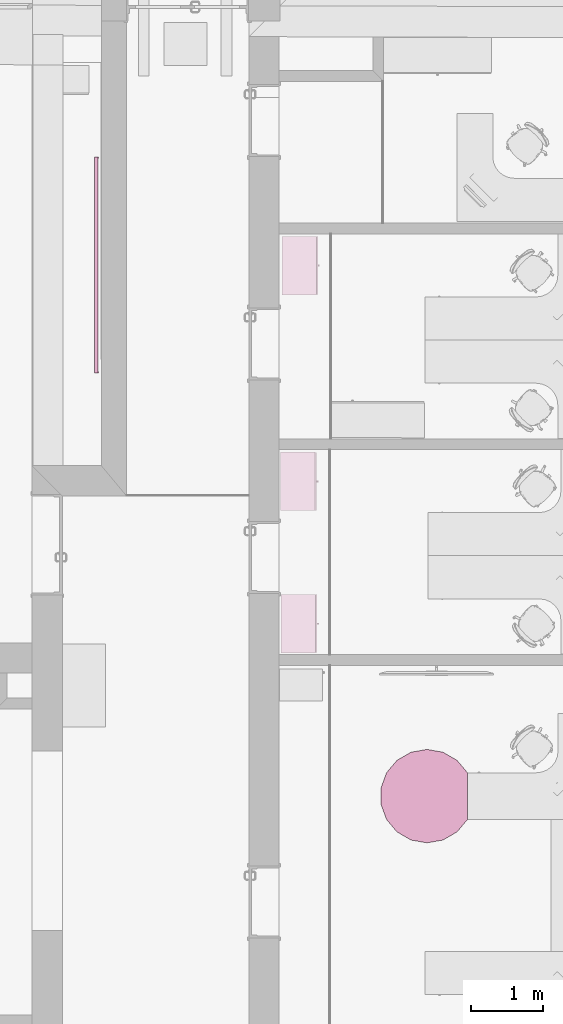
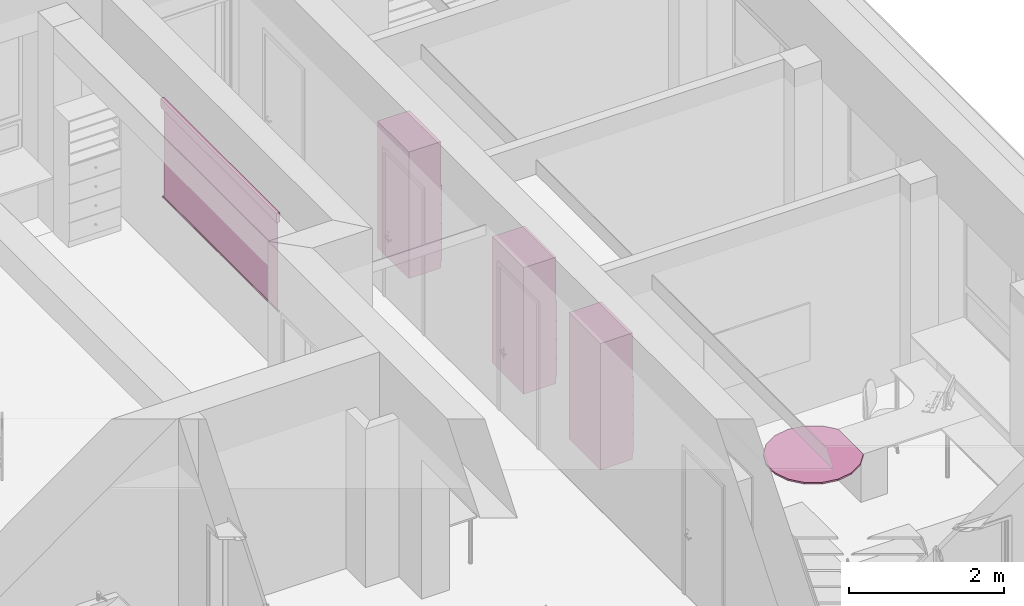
# One storey, part 125 of 194: 5 furnishings.
"""IFC2X3 building model written with IfcOpenShell, lengths in millimetres."""

from ifc_helpers import new_model, entity, si_unit, converted_unit, derived_unit, money_unit, direction, frame, origin_with_axes, place, context, subcontext, project, spatial, open_shell, faceted_brep, surface_model, source, transform, mapped, material, type_object, element, save


model = new_model("IFC2X3")

# Units and contexts
model_context = context("Model", 3, precision=1e-05, world=origin_with_axes(), true_north=direction((0.0, 1.0)))
body_context = subcontext(model_context, "Body", "Model", "MODEL_VIEW")
ifc_project = project(units=[si_unit("LENGTHUNIT", "METRE", prefix="MILLI"), si_unit("AREAUNIT", "SQUARE_METRE"), si_unit("VOLUMEUNIT", "CUBIC_METRE"), converted_unit("PLANEANGLEUNIT", "DEGREE", entity("IfcPlaneAngleMeasure", 0.0174532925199), si_unit("PLANEANGLEUNIT", "RADIAN"), dimensions=[0, 0, 0, 0, 0, 0, 0]), si_unit("SOLIDANGLEUNIT", "STERADIAN"), money_unit("EUR"), converted_unit("TIMEUNIT", "Year", entity("IfcTimeMeasure", 31556926.0), si_unit("TIMEUNIT", "SECOND"), dimensions=[0, 0, 1, 0, 0, 0, 0]), si_unit("MASSUNIT", "GRAM", prefix="KILO"), si_unit("THERMODYNAMICTEMPERATUREUNIT", "DEGREE_CELSIUS"), si_unit("LUMINOUSINTENSITYUNIT", "LUMEN"), si_unit("ENERGYUNIT", "JOULE", prefix="MEGA"), derived_unit("THERMALCONDUCTANCEUNIT", [(si_unit("POWERUNIT", "WATT"), 1), (si_unit("LENGTHUNIT", "METRE"), -1), (si_unit("THERMODYNAMICTEMPERATUREUNIT", "KELVIN"), -1)]), derived_unit("SPECIFICHEATCAPACITYUNIT", [(si_unit("ENERGYUNIT", "JOULE"), 1), (si_unit("MASSUNIT", "GRAM", prefix="KILO"), -1), (si_unit("THERMODYNAMICTEMPERATUREUNIT", "KELVIN"), -1)]), derived_unit("MASSDENSITYUNIT", [(si_unit("MASSUNIT", "GRAM", prefix="KILO"), 1), (si_unit("VOLUMEUNIT", "CUBIC_METRE"), -1)])], contexts=[model_context])

# Site, building, storey
site_placement = place(None, origin_with_axes())
site = spatial("IfcSite", under=ifc_project, at=site_placement, Name="Site", CompositionType="ELEMENT")
building_placement = place(site_placement, origin_with_axes())
building = spatial("IfcBuilding", under=site, at=building_placement, Name="Building", CompositionType="ELEMENT")
storey_placement = place(building_placement, frame((0.0, 0.0, 3000.0), z_axis=(0.0, 0.0, 1.0), x_axis=(1.0, 0.0, 0.0)))
storey = spatial("IfcBuildingStorey", under=building, at=storey_placement, Name="2 KORRUS", CompositionType="ELEMENT", Elevation=3000.0)

# Furnishings
furnishing_element_type_1 = type_object("IfcFurnishingElementType", Name="Projector Screen 22")
shared_shape_1 = source(origin_with_axes(), body_context, "Body", "SurfaceModel", [
    faceted_brep([(1500.0, 12.5, 1450.0), (1500.0, -31.25, 1450.0), (-1500.0, -31.25, 1450.0), (-1500.0, 12.5, 1450.0), (1500.0, 12.5, 1600.0), (1500.0, -37.5, 1600.0), (1500.0, -37.5, 1475.0), (1500.0, -31.25, 1475.0), (-1500.0, -31.25, 1475.0), (-1500.0, -37.5, 1475.0), (-1500.0, -37.5, 1600.0), (-1500.0, 12.5, 1600.0)], [[[0, 1, 2, 3]], [[0, 4, 5, 6, 7, 1]], [[1, 7, 8, 2]], [[3, 2, 8, 9, 10, 11]], [[4, 0, 3, 11]], [[5, 4, 11, 10]], [[6, 5, 10, 9]], [[7, 6, 9, 8]]]),
    faceted_brep([(-1480.0, 5.17766952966, 25.0), (-1480.0, 12.5, 32.3223304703), (1480.0, 12.5, 32.3223304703), (1480.0, 5.17766952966, 25.0), (-1480.0, -5.17766952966, 25.0), (-1480.0, -12.5, 32.3223304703), (-1480.0, -12.5, 42.6776695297), (-1480.0, -5.17766952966, 50.0), (-1480.0, 5.17766952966, 50.0), (-1480.0, 12.5, 42.6776695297), (1480.0, 12.5, 42.6776695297), (1480.0, 5.17766952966, 50.0), (1480.0, -5.17766952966, 50.0), (1480.0, -12.5, 42.6776695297), (1480.0, -12.5, 32.3223304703), (1480.0, -5.17766952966, 25.0)], [[[0, 1, 2, 3]], [[0, 4, 5, 6, 7, 8, 9, 1]], [[1, 9, 10, 2]], [[3, 2, 10, 11, 12, 13, 14, 15]], [[4, 0, 3, 15]], [[5, 4, 15, 14]], [[6, 5, 14, 13]], [[7, 6, 13, 12]], [[8, 7, 12, 11]], [[9, 8, 11, 10]]]),
    faceted_brep([(-1500.0, 6.00609665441, 23.0), (-1500.0, 14.5, 31.4939033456), (-1480.0, 14.5, 31.4939033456), (-1480.0, 6.00609665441, 23.0), (-1500.0, -6.00609665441, 23.0), (-1500.0, -14.5, 31.4939033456), (-1500.0, -14.5, 43.5060966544), (-1500.0, -6.00609665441, 52.0), (-1500.0, 6.00609665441, 52.0), (-1500.0, 14.5, 43.5060966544), (-1480.0, 14.5, 43.5060966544), (-1480.0, 6.00609665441, 52.0), (-1480.0, -6.00609665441, 52.0), (-1480.0, -14.5, 43.5060966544), (-1480.0, -14.5, 31.4939033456), (-1480.0, -6.00609665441, 23.0)], [[[0, 1, 2, 3]], [[0, 4, 5, 6, 7, 8, 9, 1]], [[1, 9, 10, 2]], [[3, 2, 10, 11, 12, 13, 14, 15]], [[4, 0, 3, 15]], [[5, 4, 15, 14]], [[6, 5, 14, 13]], [[7, 6, 13, 12]], [[8, 7, 12, 11]], [[9, 8, 11, 10]]]),
    faceted_brep([(1480.0, 6.00609665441, 23.0), (1480.0, 14.5, 31.4939033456), (1500.0, 14.5, 31.4939033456), (1500.0, 6.00609665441, 23.0), (1480.0, -6.00609665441, 23.0), (1480.0, -14.5, 31.4939033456), (1480.0, -14.5, 43.5060966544), (1480.0, -6.00609665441, 52.0), (1480.0, 6.00609665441, 52.0), (1480.0, 14.5, 43.5060966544), (1500.0, 14.5, 43.5060966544), (1500.0, 6.00609665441, 52.0), (1500.0, -6.00609665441, 52.0), (1500.0, -14.5, 43.5060966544), (1500.0, -14.5, 31.4939033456), (1500.0, -6.00609665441, 23.0)], [[[0, 1, 2, 3]], [[0, 4, 5, 6, 7, 8, 9, 1]], [[1, 9, 10, 2]], [[3, 2, 10, 11, 12, 13, 14, 15]], [[4, 0, 3, 15]], [[5, 4, 15, 14]], [[6, 5, 14, 13]], [[7, 6, 13, 12]], [[8, 7, 12, 11]], [[9, 8, 11, 10]]]),
    faceted_brep([(-14.0, 1.5, 25.0), (-14.0, 1.5, 14.0), (-14.0, -1.5, 14.0), (-14.0, -1.5, 25.0), (-11.0, 1.5, 25.0), (-11.0, 1.5, 14.0), (-10.6251840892, 1.5, 11.1529905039), (-9.52627944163, 1.5, 8.5), (-7.77817459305, 1.5, 6.22182540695), (-5.5, 1.5, 4.47372055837), (-2.84700949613, 1.5, 3.37481591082), (0.0, 1.5, 3.0), (2.84700949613, 1.5, 3.37481591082), (5.5, 1.5, 4.47372055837), (7.77817459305, 1.5, 6.22182540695), (9.52627944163, 1.5, 8.5), (10.6251840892, 1.5, 11.1529905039), (11.0, 1.5, 14.0), (11.0, 1.5, 25.0), (14.0, 1.5, 25.0), (14.0, 1.5, 14.0), (13.522961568, 1.5, 10.3765333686), (12.124355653, 1.5, 7.0), (9.89949493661, 1.5, 4.10050506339), (7.0, 1.5, 1.87564434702), (3.62346663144, 1.5, 0.477038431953), (0.0, 1.5, 0.0), (-3.62346663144, 1.5, 0.477038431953), (-7.0, 1.5, 1.87564434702), (-9.89949493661, 1.5, 4.10050506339), (-12.124355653, 1.5, 7.0), (-13.522961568, 1.5, 10.3765333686), (-13.522961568, -1.5, 10.3765333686), (-12.124355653, -1.5, 7.0), (-9.89949493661, -1.5, 4.10050506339), (-7.0, -1.5, 1.87564434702), (-3.62346663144, -1.5, 0.477038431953), (0.0, -1.5, 0.0), (3.62346663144, -1.5, 0.477038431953), (7.0, -1.5, 1.87564434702), (9.89949493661, -1.5, 4.10050506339), (12.124355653, -1.5, 7.0), (13.522961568, -1.5, 10.3765333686), (14.0, -1.5, 14.0), (14.0, -1.5, 25.0), (11.0, -1.5, 25.0), (11.0, -1.5, 14.0), (10.6251840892, -1.5, 11.1529905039), (9.52627944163, -1.5, 8.5), (7.77817459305, -1.5, 6.22182540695), (5.5, -1.5, 4.47372055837), (2.84700949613, -1.5, 3.37481591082), (0.0, -1.5, 3.0), (-2.84700949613, -1.5, 3.37481591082), (-5.5, -1.5, 4.47372055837), (-7.77817459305, -1.5, 6.22182540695), (-9.52627944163, -1.5, 8.5), (-10.6251840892, -1.5, 11.1529905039), (-11.0, -1.5, 14.0), (-11.0, -1.5, 25.0)], [[[0, 1, 2, 3]], [[0, 4, 5, 6, 7, 8, 9, 10, 11, 12, 13, 14, 15, 16, 17, 18, 19, 20, 21, 22, 23, 24, 25, 26, 27, 28, 29, 30, 31, 1]], [[1, 31, 32, 2]], [[3, 2, 32, 33, 34, 35, 36, 37, 38, 39, 40, 41, 42, 43, 44, 45, 46, 47, 48, 49, 50, 51, 52, 53, 54, 55, 56, 57, 58, 59]], [[4, 0, 3, 59]], [[5, 4, 59, 58]], [[6, 5, 58, 57]], [[7, 6, 57, 56]], [[8, 7, 56, 55]], [[9, 8, 55, 54]], [[10, 9, 54, 53]], [[11, 10, 53, 52]], [[12, 11, 52, 51]], [[13, 12, 51, 50]], [[14, 13, 50, 49]], [[15, 14, 49, 48]], [[16, 15, 48, 47]], [[17, 16, 47, 46]], [[18, 17, 46, 45]], [[19, 18, 45, 44]], [[20, 19, 44, 43]], [[21, 20, 43, 42]], [[22, 21, 42, 41]], [[23, 22, 41, 40]], [[24, 23, 40, 39]], [[25, 24, 39, 38]], [[26, 25, 38, 37]], [[27, 26, 37, 36]], [[28, 27, 36, 35]], [[29, 28, 35, 34]], [[30, 29, 34, 33]], [[31, 30, 33, 32]]]),
    surface_model("IfcShellBasedSurfaceModel", [(-1480.0, 0.0, 50.0), (-1480.0, 0.0, 1450.0), (1480.0, 0.0, 1450.0), (1480.0, 0.0, 50.0)], [open_shell([[[0, 1, 2, 3]]])]),
])
furnishing_1_placement = place(storey_placement, frame((37631.0400447, 19158.5594667, 1000.0), z_axis=(0.0, 0.0, 1.0), x_axis=(0.0, -1.0, 0.0)))
element("IfcFurnishingElement", 1, at=furnishing_1_placement, inside=storey, type_object=furnishing_element_type_1, Name="FU - 003", context=body_context, shape_type="MappedRepresentation", body=[
    mapped(shared_shape_1, transform((0.0, 0.0, 0.0))),
])
furnishing_element_type_2 = type_object("IfcFurnishingElementType", Name="Model Element 150")
shared_shape_2 = source(origin_with_axes(), body_context, "Body", "Brep", [
    faceted_brep([(813.383953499, 19.0, 0.0), (0.0, 19.0, 0.0), (0.0, 500.496470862, 0.0), (813.383953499, 500.496470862, 0.0), (813.383953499, 19.0, 100.0), (0.0, 19.0, 100.0), (0.0, 500.496470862, 100.0), (813.383953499, 500.496470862, 100.0)], [[[0, 1, 2, 3]], [[1, 0, 4, 5]], [[2, 1, 5, 6]], [[3, 2, 6, 7]], [[0, 3, 7, 4]], [[5, 4, 7, 6]]]),
    faceted_brep([(19.0, 500.496470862, 119.0), (19.0, 481.496470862, 119.0), (19.0, 481.496470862, 1981.0), (19.0, 500.496470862, 1981.0), (794.383953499, 500.496470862, 119.0), (794.383953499, 481.496470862, 119.0), (794.383953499, 481.496470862, 1981.0), (794.383953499, 500.496470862, 1981.0)], [[[0, 1, 2, 3]], [[0, 4, 5, 1]], [[1, 5, 6, 2]], [[3, 2, 6, 7]], [[4, 0, 3, 7]], [[5, 4, 7, 6]]]),
    faceted_brep([(813.383953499, 19.0, 100.0), (794.383953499, 19.0, 100.0), (794.383953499, 500.496470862, 100.0), (813.383953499, 500.496470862, 100.0), (813.383953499, 19.0, 2000.0), (794.383953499, 19.0, 2000.0), (794.383953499, 500.496470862, 2000.0), (813.383953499, 500.496470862, 2000.0)], [[[0, 1, 2, 3]], [[1, 0, 4, 5]], [[2, 1, 5, 6]], [[3, 2, 6, 7]], [[0, 3, 7, 4]], [[5, 4, 7, 6]]]),
    faceted_brep([(19.0, 19.0, 100.0), (0.0, 19.0, 100.0), (0.0, 500.496470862, 100.0), (19.0, 500.496470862, 100.0), (19.0, 19.0, 2000.0), (0.0, 19.0, 2000.0), (0.0, 500.496470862, 2000.0), (19.0, 500.496470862, 2000.0)], [[[0, 1, 2, 3]], [[1, 0, 4, 5]], [[2, 1, 5, 6]], [[3, 2, 6, 7]], [[0, 3, 7, 4]], [[5, 4, 7, 6]]]),
    faceted_brep([(794.383953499, 19.0, 100.0), (19.0, 19.0, 100.0), (19.0, 500.496470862, 100.0), (794.383953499, 500.496470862, 100.0), (794.383953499, 19.0, 119.0), (19.0, 19.0, 119.0), (19.0, 500.496470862, 119.0), (794.383953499, 500.496470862, 119.0)], [[[0, 1, 2, 3]], [[1, 0, 4, 5]], [[2, 1, 5, 6]], [[3, 2, 6, 7]], [[0, 3, 7, 4]], [[5, 4, 7, 6]]]),
    faceted_brep([(794.383953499, 19.0, 1981.0), (19.0, 19.0, 1981.0), (19.0, 500.496470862, 1981.0), (794.383953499, 500.496470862, 1981.0), (794.383953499, 19.0, 2000.0), (19.0, 19.0, 2000.0), (19.0, 500.496470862, 2000.0), (794.383953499, 500.496470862, 2000.0)], [[[0, 1, 2, 3]], [[1, 0, 4, 5]], [[2, 1, 5, 6]], [[3, 2, 6, 7]], [[0, 3, 7, 4]], [[5, 4, 7, 6]]]),
    faceted_brep([(5.0, 19.0, 105.0), (808.383953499, 19.0, 105.0), (808.383953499, 0.0, 105.0), (5.0, 0.0, 105.0), (5.0, 19.0, 395.0), (808.383953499, 19.0, 395.0), (808.383953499, 0.0, 395.0), (5.0, 0.0, 395.0)], [[[0, 1, 2, 3]], [[0, 4, 5, 1]], [[1, 5, 6, 2]], [[3, 2, 6, 7]], [[4, 0, 3, 7]], [[5, 4, 7, 6]]]),
    faceted_brep([(417.084281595, 0.0, 244.0), (412.691976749, 0.0, 239.607695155), (406.691976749, 0.0, 238.0), (400.691976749, 0.0, 239.607695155), (396.299671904, 0.0, 244.0), (394.691976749, 0.0, 250.0), (396.299671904, 0.0, 256.0), (400.691976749, 0.0, 260.392304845), (406.691976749, 0.0, 262.0), (412.691976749, 0.0, 260.392304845), (417.084281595, 0.0, 256.0), (418.691976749, 0.0, 250.0), (417.084281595, -25.0, 244.0), (412.691976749, -25.0, 239.607695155), (406.691976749, -25.0, 238.0), (400.691976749, -25.0, 239.607695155), (396.299671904, -25.0, 244.0), (394.691976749, -25.0, 250.0), (396.299671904, -25.0, 256.0), (400.691976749, -25.0, 260.392304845), (406.691976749, -25.0, 262.0), (412.691976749, -25.0, 260.392304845), (417.084281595, -25.0, 256.0), (418.691976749, -25.0, 250.0)], [[[0, 1, 2, 3, 4, 5, 6, 7, 8, 9, 10, 11]], [[1, 0, 12, 13]], [[2, 1, 13, 14]], [[3, 2, 14, 15]], [[4, 3, 15, 16]], [[5, 4, 16, 17]], [[6, 5, 17, 18]], [[7, 6, 18, 19]], [[8, 7, 19, 20]], [[9, 8, 20, 21]], [[10, 9, 21, 22]], [[11, 10, 22, 23]], [[0, 11, 23, 12]], [[12, 23, 22, 21, 20, 19, 18, 17, 16, 15, 14, 13]]]),
    faceted_brep([(5.0, 19.0, 405.0), (808.383953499, 19.0, 405.0), (808.383953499, 0.0, 405.0), (5.0, 0.0, 405.0), (5.0, 19.0, 695.0), (808.383953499, 19.0, 695.0), (808.383953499, 0.0, 695.0), (5.0, 0.0, 695.0)], [[[0, 1, 2, 3]], [[0, 4, 5, 1]], [[1, 5, 6, 2]], [[3, 2, 6, 7]], [[4, 0, 3, 7]], [[5, 4, 7, 6]]]),
    faceted_brep([(417.084281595, 0.0, 544.0), (412.691976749, 0.0, 539.607695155), (406.691976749, 0.0, 538.0), (400.691976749, 0.0, 539.607695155), (396.299671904, 0.0, 544.0), (394.691976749, 0.0, 550.0), (396.299671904, 0.0, 556.0), (400.691976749, 0.0, 560.392304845), (406.691976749, 0.0, 562.0), (412.691976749, 0.0, 560.392304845), (417.084281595, 0.0, 556.0), (418.691976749, 0.0, 550.0), (417.084281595, -25.0, 544.0), (412.691976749, -25.0, 539.607695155), (406.691976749, -25.0, 538.0), (400.691976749, -25.0, 539.607695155), (396.299671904, -25.0, 544.0), (394.691976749, -25.0, 550.0), (396.299671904, -25.0, 556.0), (400.691976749, -25.0, 560.392304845), (406.691976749, -25.0, 562.0), (412.691976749, -25.0, 560.392304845), (417.084281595, -25.0, 556.0), (418.691976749, -25.0, 550.0)], [[[0, 1, 2, 3, 4, 5, 6, 7, 8, 9, 10, 11]], [[1, 0, 12, 13]], [[2, 1, 13, 14]], [[3, 2, 14, 15]], [[4, 3, 15, 16]], [[5, 4, 16, 17]], [[6, 5, 17, 18]], [[7, 6, 18, 19]], [[8, 7, 19, 20]], [[9, 8, 20, 21]], [[10, 9, 21, 22]], [[11, 10, 22, 23]], [[0, 11, 23, 12]], [[12, 23, 22, 21, 20, 19, 18, 17, 16, 15, 14, 13]]]),
    faceted_brep([(5.0, 19.0, 705.0), (808.383953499, 19.0, 705.0), (808.383953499, 0.0, 705.0), (5.0, 0.0, 705.0), (5.0, 19.0, 995.0), (808.383953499, 19.0, 995.0), (808.383953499, 0.0, 995.0), (5.0, 0.0, 995.0)], [[[0, 1, 2, 3]], [[0, 4, 5, 1]], [[1, 5, 6, 2]], [[3, 2, 6, 7]], [[4, 0, 3, 7]], [[5, 4, 7, 6]]]),
    faceted_brep([(417.084281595, 0.0, 844.0), (412.691976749, 0.0, 839.607695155), (406.691976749, 0.0, 838.0), (400.691976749, 0.0, 839.607695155), (396.299671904, 0.0, 844.0), (394.691976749, 0.0, 850.0), (396.299671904, 0.0, 856.0), (400.691976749, 0.0, 860.392304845), (406.691976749, 0.0, 862.0), (412.691976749, 0.0, 860.392304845), (417.084281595, 0.0, 856.0), (418.691976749, 0.0, 850.0), (417.084281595, -25.0, 844.0), (412.691976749, -25.0, 839.607695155), (406.691976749, -25.0, 838.0), (400.691976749, -25.0, 839.607695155), (396.299671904, -25.0, 844.0), (394.691976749, -25.0, 850.0), (396.299671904, -25.0, 856.0), (400.691976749, -25.0, 860.392304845), (406.691976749, -25.0, 862.0), (412.691976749, -25.0, 860.392304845), (417.084281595, -25.0, 856.0), (418.691976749, -25.0, 850.0)], [[[0, 1, 2, 3, 4, 5, 6, 7, 8, 9, 10, 11]], [[1, 0, 12, 13]], [[2, 1, 13, 14]], [[3, 2, 14, 15]], [[4, 3, 15, 16]], [[5, 4, 16, 17]], [[6, 5, 17, 18]], [[7, 6, 18, 19]], [[8, 7, 19, 20]], [[9, 8, 20, 21]], [[10, 9, 21, 22]], [[11, 10, 22, 23]], [[0, 11, 23, 12]], [[12, 23, 22, 21, 20, 19, 18, 17, 16, 15, 14, 13]]]),
    faceted_brep([(5.0, 19.0, 1005.0), (808.383953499, 19.0, 1005.0), (808.383953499, 0.0, 1005.0), (5.0, 0.0, 1005.0), (5.0, 19.0, 1295.0), (808.383953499, 19.0, 1295.0), (808.383953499, 0.0, 1295.0), (5.0, 0.0, 1295.0)], [[[0, 1, 2, 3]], [[0, 4, 5, 1]], [[1, 5, 6, 2]], [[3, 2, 6, 7]], [[4, 0, 3, 7]], [[5, 4, 7, 6]]]),
    faceted_brep([(417.084281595, 0.0, 1144.0), (412.691976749, 0.0, 1139.60769515), (406.691976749, 0.0, 1138.0), (400.691976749, 0.0, 1139.60769515), (396.299671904, 0.0, 1144.0), (394.691976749, 0.0, 1150.0), (396.299671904, 0.0, 1156.0), (400.691976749, 0.0, 1160.39230485), (406.691976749, 0.0, 1162.0), (412.691976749, 0.0, 1160.39230485), (417.084281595, 0.0, 1156.0), (418.691976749, 0.0, 1150.0), (417.084281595, -25.0, 1144.0), (412.691976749, -25.0, 1139.60769515), (406.691976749, -25.0, 1138.0), (400.691976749, -25.0, 1139.60769515), (396.299671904, -25.0, 1144.0), (394.691976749, -25.0, 1150.0), (396.299671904, -25.0, 1156.0), (400.691976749, -25.0, 1160.39230485), (406.691976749, -25.0, 1162.0), (412.691976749, -25.0, 1160.39230485), (417.084281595, -25.0, 1156.0), (418.691976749, -25.0, 1150.0)], [[[0, 1, 2, 3, 4, 5, 6, 7, 8, 9, 10, 11]], [[1, 0, 12, 13]], [[2, 1, 13, 14]], [[3, 2, 14, 15]], [[4, 3, 15, 16]], [[5, 4, 16, 17]], [[6, 5, 17, 18]], [[7, 6, 18, 19]], [[8, 7, 19, 20]], [[9, 8, 20, 21]], [[10, 9, 21, 22]], [[11, 10, 22, 23]], [[0, 11, 23, 12]], [[12, 23, 22, 21, 20, 19, 18, 17, 16, 15, 14, 13]]]),
    faceted_brep([(19.0, 19.0, 390.5), (794.383953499, 19.0, 390.5), (794.383953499, 19.0, 409.5), (19.0, 19.0, 409.5), (19.0, 481.496470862, 390.5), (794.383953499, 481.496470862, 390.5), (794.383953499, 481.496470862, 409.5), (19.0, 481.496470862, 409.5)], [[[0, 1, 2, 3]], [[0, 4, 5, 1]], [[1, 5, 6, 2]], [[3, 2, 6, 7]], [[4, 0, 3, 7]], [[5, 4, 7, 6]]]),
    faceted_brep([(19.0, 19.0, 690.5), (794.383953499, 19.0, 690.5), (794.383953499, 19.0, 709.5), (19.0, 19.0, 709.5), (19.0, 481.496470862, 690.5), (794.383953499, 481.496470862, 690.5), (794.383953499, 481.496470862, 709.5), (19.0, 481.496470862, 709.5)], [[[0, 1, 2, 3]], [[0, 4, 5, 1]], [[1, 5, 6, 2]], [[3, 2, 6, 7]], [[4, 0, 3, 7]], [[5, 4, 7, 6]]]),
    faceted_brep([(19.0, 19.0, 990.5), (794.383953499, 19.0, 990.5), (794.383953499, 19.0, 1009.5), (19.0, 19.0, 1009.5), (19.0, 481.496470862, 990.5), (794.383953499, 481.496470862, 990.5), (794.383953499, 481.496470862, 1009.5), (19.0, 481.496470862, 1009.5)], [[[0, 1, 2, 3]], [[0, 4, 5, 1]], [[1, 5, 6, 2]], [[3, 2, 6, 7]], [[4, 0, 3, 7]], [[5, 4, 7, 6]]]),
    faceted_brep([(19.0, 19.0, 1290.5), (794.383953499, 19.0, 1290.5), (794.383953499, 19.0, 1309.5), (19.0, 19.0, 1309.5), (19.0, 481.496470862, 1290.5), (794.383953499, 481.496470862, 1290.5), (794.383953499, 481.496470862, 1309.5), (19.0, 481.496470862, 1309.5)], [[[0, 1, 2, 3]], [[0, 4, 5, 1]], [[1, 5, 6, 2]], [[3, 2, 6, 7]], [[4, 0, 3, 7]], [[5, 4, 7, 6]]]),
    faceted_brep([(794.383953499, 19.0, 1463.125), (19.0, 19.0, 1463.125), (19.0, 481.496470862, 1463.125), (794.383953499, 481.496470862, 1463.125), (794.383953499, 19.0, 1482.125), (19.0, 19.0, 1482.125), (19.0, 481.496470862, 1482.125), (794.383953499, 481.496470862, 1482.125)], [[[0, 1, 2, 3]], [[1, 0, 4, 5]], [[2, 1, 5, 6]], [[3, 2, 6, 7]], [[0, 3, 7, 4]], [[5, 4, 7, 6]]]),
    faceted_brep([(794.383953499, 19.0, 1635.75), (19.0, 19.0, 1635.75), (19.0, 481.496470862, 1635.75), (794.383953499, 481.496470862, 1635.75), (794.383953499, 19.0, 1654.75), (19.0, 19.0, 1654.75), (19.0, 481.496470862, 1654.75), (794.383953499, 481.496470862, 1654.75)], [[[0, 1, 2, 3]], [[1, 0, 4, 5]], [[2, 1, 5, 6]], [[3, 2, 6, 7]], [[0, 3, 7, 4]], [[5, 4, 7, 6]]]),
    faceted_brep([(794.383953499, 19.0, 1808.375), (19.0, 19.0, 1808.375), (19.0, 481.496470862, 1808.375), (794.383953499, 481.496470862, 1808.375), (794.383953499, 19.0, 1827.375), (19.0, 19.0, 1827.375), (19.0, 481.496470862, 1827.375), (794.383953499, 481.496470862, 1827.375)], [[[0, 1, 2, 3]], [[1, 0, 4, 5]], [[2, 1, 5, 6]], [[3, 2, 6, 7]], [[0, 3, 7, 4]], [[5, 4, 7, 6]]]),
])
for number, where, z_axis, x_axis, name in (
    (2, (40688.1079587, 13763.3949754, 0.0), (0.0, 0.0, 1.0), (0.000642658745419, 0.999999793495, 0.0), "FU - 001"),
    (3, (40681.0703278, 15741.4826137, 0.0), (0.0, 0.0, 1.0), (0.000642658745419, 0.999999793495, 0.0), "FU - 001"),
    (4, (40698.7445237, 18743.4102612, 0.0), (0.0, 0.0, 1.0), (0.000642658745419, 0.999999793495, 0.0), "FU - 001"),
):
    element("IfcFurnishingElement", number, at=place(storey_placement, frame(where, z_axis=z_axis, x_axis=x_axis)), inside=storey, type_object=furnishing_element_type_2, Name=name, context=body_context, shape_type="MappedRepresentation", body=[
        mapped(shared_shape_2, transform((0.0, 0.0, 0.0))),
    ])
ifc_material = material(Name="GENEERILINE - KEKKKOND (1)")
furnishing_element_type_3 = type_object("IfcFurnishingElementType", Name="Model Element 22")
shared_shape_3 = source(origin_with_axes(), body_context, "Body", "Brep", [
    faceted_brep([(562.91651246, -325.0, 725.0), (562.91651246, 325.0, 725.0), (562.91651246, 325.0, 750.0), (562.91651246, -325.0, 750.0), (417.811946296, -497.928888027, 725.0), (222.313093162, -610.800203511, 725.0), (0.0, -650.0, 725.0), (-222.313093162, -610.800203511, 725.0), (-417.811946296, -497.928888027, 725.0), (-562.91651246, -325.0, 725.0), (-640.125039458, -112.871315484, 725.0), (-640.125039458, 112.871315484, 725.0), (-562.91651246, 325.0, 725.0), (-417.811946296, 497.928888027, 725.0), (-222.313093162, 610.800203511, 725.0), (0.0, 650.0, 725.0), (222.313093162, 610.800203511, 725.0), (417.811946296, 497.928888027, 725.0), (417.811946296, 497.928888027, 750.0), (222.313093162, 610.800203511, 750.0), (0.0, 650.0, 750.0), (-222.313093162, 610.800203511, 750.0), (-417.811946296, 497.928888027, 750.0), (-562.91651246, 325.0, 750.0), (-640.125039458, 112.871315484, 750.0), (-640.125039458, -112.871315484, 750.0), (-562.91651246, -325.0, 750.0), (-417.811946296, -497.928888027, 750.0), (-222.313093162, -610.800203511, 750.0), (0.0, -650.0, 750.0), (222.313093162, -610.800203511, 750.0), (417.811946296, -497.928888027, 750.0)], [[[0, 1, 2, 3]], [[0, 4, 5, 6, 7, 8, 9, 10, 11, 12, 13, 14, 15, 16, 17, 1]], [[1, 17, 18, 2]], [[3, 2, 18, 19, 20, 21, 22, 23, 24, 25, 26, 27, 28, 29, 30, 31]], [[4, 0, 3, 31]], [[5, 4, 31, 30]], [[6, 5, 30, 29]], [[7, 6, 29, 28]], [[8, 7, 28, 27]], [[9, 8, 27, 26]], [[10, 9, 26, 25]], [[11, 10, 25, 24]], [[12, 11, 24, 23]], [[13, 12, 23, 22]], [[14, 13, 22, 21]], [[15, 14, 21, 20]], [[16, 15, 20, 19]], [[17, 16, 19, 18]]]),
])
furnishing_2_placement = place(storey_placement, frame((42217.4137864, 11770.6425046, 0.0), z_axis=(0.0, 0.0, 1.0), x_axis=(1.0, 0.0, 0.0)))
element("IfcFurnishingElement", 5, at=furnishing_2_placement, inside=storey, type_object=furnishing_element_type_3, material=ifc_material, Name="FU - 005", context=body_context, shape_type="MappedRepresentation", body=[
    mapped(shared_shape_3, transform((0.0, 0.0, 0.0))),
])

save(model, "model.ifc")
